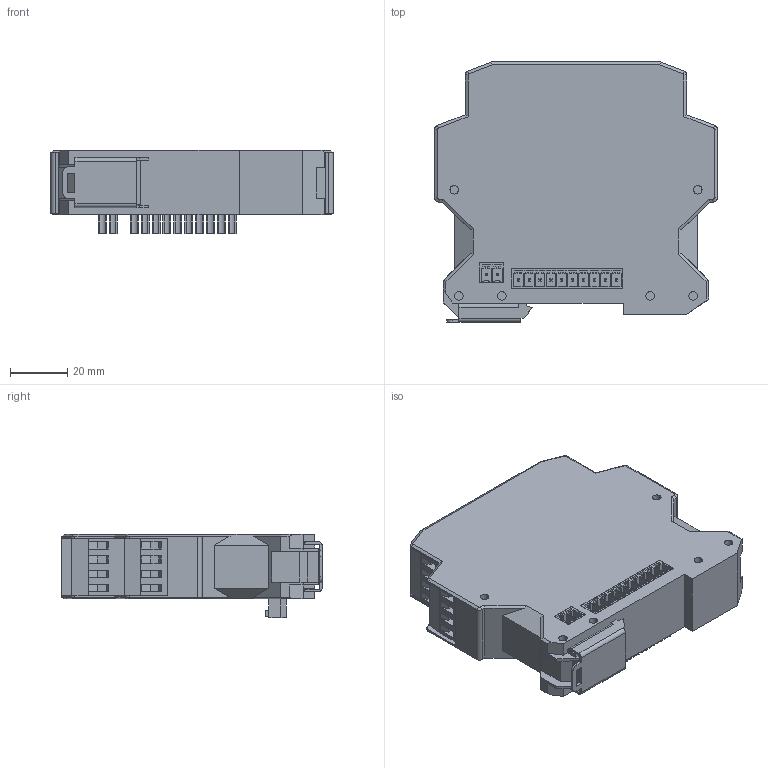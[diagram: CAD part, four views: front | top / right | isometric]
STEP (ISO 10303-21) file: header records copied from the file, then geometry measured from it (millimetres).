
FILE_DESCRIPTION (( 'STEP AP214' ), '1' );
FILE_NAME ('TPL-CONTROL-1-S.STEP', '2026-06-01T08:42:33', ( '' ), ( '' ), 'SwSTEP 2.0', 'SolidWorks 2025', '' );
FILE_SCHEMA (( 'AUTOMOTIVE_DESIGN' ));
Length unit declared in the file: millimetre
Products named in the file (1): TPL-CONTROL-1-S
Bounding box: 99 x 91.15 x 29.1 mm (x, y, z)
Volume: 165187 mm3; surface area: 32486.4 mm2
Topology: 1 solids, 1 shells, 1193 faces, 3141 edges, 2064 vertices
Faces by surface type: plane 1028, cylinder 153, cone 12
Entity records: 49433 total; most frequent: CARTESIAN_POINT 6399, ORIENTED_EDGE 6282, DIRECTION 5913, EDGE_CURVE 3141, VECTOR 2757, LINE 2757, VERTEX_POINT 2064, AXIS2_PLACEMENT_3D 1578
